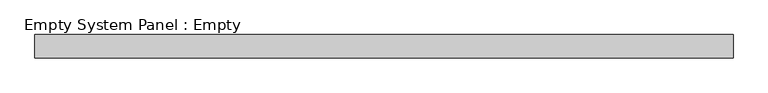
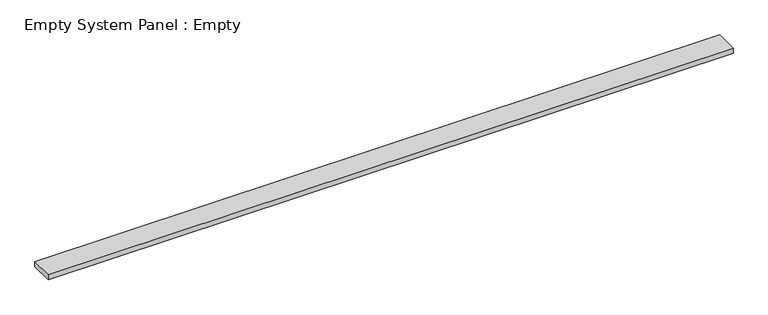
"""IFC4 building model written with IfcOpenShell, lengths in millimetres: plate geometry, Empty System Panel : Empty."""

import ifcopenshell
import ifcopenshell.guid

model = None  # the IFC model being written
_history = None  # IfcOwnerHistory: only IFC2X3 demands one
_inside = {}  # id of a spatial element -> (the spatial element, [elements in it])
_under = {}  # id of a project, library or spatial element -> (it, [spatial elements below it])
_declared = {}  # id of a project -> (the project, [libraries it declares])
_typed = {}  # id of a type object -> (the type object, [elements of that type])
_made_of = {}  # id of a material, layer set ... -> (it, [elements and type objects made of it])


def new_model(schema):
    """Start an empty IFC model of exactly this schema.

    Asked for "IFC4X3", IfcOpenShell would pick the latest addendum, in which some entities
    have other attributes; the version numbers below select the first issue.
    IFC2X3 requires an IfcOwnerHistory on every rooted entity: one is made here for all.
    """
    global model, _history
    if schema == "IFC4X3":
        model = ifcopenshell.file(schema_version=(4, 3, 0, 0))
    else:
        model = ifcopenshell.file(schema=schema)
    _inside.clear()
    _under.clear()
    _declared.clear()
    _typed.clear()
    _made_of.clear()
    _history = None
    if model.schema == "IFC2X3":
        org = make("IfcOrganization", Name="unknown")
        user = make(
            "IfcPersonAndOrganization",
            ThePerson=make("IfcPerson", FamilyName="unknown"),
            TheOrganization=org,
        )
        app = make(
            "IfcApplication",
            ApplicationDeveloper=org,
            Version="unknown",
            ApplicationFullName="unknown",
            ApplicationIdentifier="unknown",
        )
        _history = make(
            "IfcOwnerHistory",
            OwningUser=user,
            OwningApplication=app,
            ChangeAction="ADDED",
            CreationDate=0,
        )
    return model


def make(cls, **values):
    """One entity of the class cls with the attributes given. An attribute that is None is left unset."""
    return model.create_entity(
        cls, **{name: value for name, value in values.items() if value is not None}
    )


def rooted(cls, **values):
    """An entity with a GlobalId (a new one), such as an element, a storey or a relation."""
    return make(cls, GlobalId=ifcopenshell.guid.new(), OwnerHistory=_history, **values)


def si_unit(unit_type, name, prefix=None):
    """IfcSIUnit, for example si_unit("LENGTHUNIT", "METRE", prefix="MILLI")."""
    return make("IfcSIUnit", UnitType=unit_type, Prefix=prefix, Name=name)


def assignment(units):
    """IfcUnitAssignment: the units of a project."""
    return None if units is None else make("IfcUnitAssignment", Units=units)


def point(xyz):
    """IfcCartesianPoint."""
    return None if xyz is None else make("IfcCartesianPoint", Coordinates=xyz)


def direction(xyz):
    """IfcDirection."""
    return None if xyz is None else make("IfcDirection", DirectionRatios=xyz)


def frame(location, z_axis=None, x_axis=None):
    """IfcAxis2Placement3D, a coordinate frame: its origin and axes. An axis left out is left unset."""
    return make(
        "IfcAxis2Placement3D",
        Location=point(location),
        Axis=direction(z_axis),
        RefDirection=direction(x_axis),
    )


def origin():
    """The frame at (0, 0, 0) with its axes left unset."""
    return frame((0.0, 0.0, 0.0))


def origin_with_axes():
    """The frame at (0, 0, 0) with the z axis (0, 0, 1) and the x axis (1, 0, 0) written out."""
    return frame((0.0, 0.0, 0.0), z_axis=(0.0, 0.0, 1.0), x_axis=(1.0, 0.0, 0.0))


def place(relative_to, where):
    """IfcLocalPlacement: puts the frame where relative to a parent placement (None: the world)."""
    return make(
        "IfcLocalPlacement", PlacementRelTo=relative_to, RelativePlacement=where
    )


def context(
    kind, dimensions, precision=None, world=None, true_north=None, identifier=None
):
    """IfcGeometricRepresentationContext, for example the 3D "Model" context."""
    return make(
        "IfcGeometricRepresentationContext",
        ContextIdentifier=identifier,
        ContextType=kind,
        CoordinateSpaceDimension=dimensions,
        Precision=precision,
        WorldCoordinateSystem=world,
        TrueNorth=true_north,
    )


def project(units=None, contexts=None):
    """IfcProject with its units and contexts."""
    return rooted(
        "IfcProject",
        Name="project",
        RepresentationContexts=contexts,
        UnitsInContext=assignment(units),
    )


def spatial(cls, under=None, at=None, **own):
    """A site, building, storey or space (cls), placed at a placement, below another one or the project."""
    s = rooted(cls, ObjectPlacement=at, **own)
    if under is not None:
        _under.setdefault(under.id(), (under, []))[1].append(s)
    return s


def polyline(points):
    """IfcPolyline through the points."""
    return make("IfcPolyline", Points=[point(p) for p in points])


def outline(outer, holes=None, kind="AREA"):
    """IfcArbitraryClosedProfileDef: a profile drawn as a closed curve; with holes, ...WithVoids."""
    if holes is None:
        return make("IfcArbitraryClosedProfileDef", ProfileType=kind, OuterCurve=outer)
    return make(
        "IfcArbitraryProfileDefWithVoids",
        ProfileType=kind,
        OuterCurve=outer,
        InnerCurves=holes,
    )


def extrude(swept, where, along, depth):
    """IfcExtrudedAreaSolid: the profile swept, set in the frame where, extruded along a direction by depth."""
    return make(
        "IfcExtrudedAreaSolid",
        SweptArea=swept,
        Position=where,
        ExtrudedDirection=direction(along),
        Depth=depth,
    )


def shape(context_of_items, identifier, shape_type, items):
    """IfcShapeRepresentation: the items that make up one representation, for example the "Body"."""
    return make(
        "IfcShapeRepresentation",
        ContextOfItems=context_of_items,
        RepresentationIdentifier=identifier,
        RepresentationType=shape_type,
        Items=items,
    )


def source(mapping_origin, context_of_items, identifier, shape_type, items):
    """IfcRepresentationMap: a shape defined once, which mapped items show again and again."""
    return make(
        "IfcRepresentationMap",
        MappingOrigin=mapping_origin,
        MappedRepresentation=shape(context_of_items, identifier, shape_type, items),
    )


def transform(
    local_origin,
    x_axis=None,
    y_axis=None,
    z_axis=None,
    scale=None,
    scale2=None,
    scale3=None,
    uniform=True,
):
    """IfcCartesianTransformationOperator3D, or its non-uniform kind. x_axis, y_axis, z_axis: its Axis1, 2, 3."""
    if uniform:
        return make(
            "IfcCartesianTransformationOperator3D",
            Axis1=direction(x_axis),
            Axis2=direction(y_axis),
            LocalOrigin=point(local_origin),
            Scale=scale,
            Axis3=direction(z_axis),
        )
    return make(
        "IfcCartesianTransformationOperator3DnonUniform",
        Axis1=direction(x_axis),
        Axis2=direction(y_axis),
        LocalOrigin=point(local_origin),
        Scale=scale,
        Axis3=direction(z_axis),
        Scale2=scale2,
        Scale3=scale3,
    )


def mapped(mapping_source, mapping_target):
    """IfcMappedItem: shows the shape of a source again, moved by a transform."""
    return make(
        "IfcMappedItem", MappingSource=mapping_source, MappingTarget=mapping_target
    )


def made_of(thing, what):
    """Note that an element or type object is made of a material, layer set ...; save() writes the relation."""
    if what is not None:
        _made_of.setdefault(what.id(), (what, []))[1].append(thing)
    return thing


def element(
    cls,
    number,
    at=None,
    inside=None,
    cuts=None,
    type_object=None,
    material=None,
    context=None,
    identifier="Body",
    shape_type=None,
    held_by="IfcProductDefinitionShape",
    body=None,
    shapes=None,
    **own,
):
    """One element of the class cls, such as IfcWall. Its Tag is "e" and its number.

    at: its placement. inside: the storey or other place that contains it. cuts: it is an
    opening in that element (IfcRelVoidsElement). A single representation is given by context,
    identifier, shape_type and body (its items); several are given by shapes. held_by: the class
    of the entity that holds the representations. save() writes the other relations.
    """
    e = rooted(cls, Tag="e%d" % number, ObjectPlacement=at, **own)
    if body is not None:
        shapes = [shape(context, identifier, shape_type, body)]
    if shapes is not None:
        e.Representation = make(held_by, Representations=shapes)
    if inside is not None:
        _inside.setdefault(inside.id(), (inside, []))[1].append(e)
    if cuts is not None:
        rooted(
            "IfcRelVoidsElement", RelatingBuildingElement=cuts, RelatedOpeningElement=e
        )
    if type_object is not None:
        _typed.setdefault(type_object.id(), (type_object, []))[1].append(e)
    return made_of(e, material)


def aggregate(whole, parts):
    """IfcRelAggregates: a whole, such as a stair, and the parts it consists of."""
    return rooted("IfcRelAggregates", RelatingObject=whole, RelatedObjects=parts)


def save(model, path):
    """Write the relations noted so far, then the file.

    IfcRelAggregates (storeys below a building ...), IfcRelContainedInSpatialStructure (elements
    in a storey), IfcRelDefinesByType, IfcRelAssociatesMaterial and IfcRelDeclares: one each for
    every whole, place, type object, material and project.
    """
    for whole, parts in _under.values():
        aggregate(whole, parts)
    for where, things in _inside.values():
        rooted(
            "IfcRelContainedInSpatialStructure",
            RelatedElements=things,
            RelatingStructure=where,
        )
    for kind, things in _typed.values():
        rooted("IfcRelDefinesByType", RelatedObjects=things, RelatingType=kind)
    for what, things in _made_of.values():
        rooted("IfcRelAssociatesMaterial", RelatedObjects=things, RelatingMaterial=what)
    for by, libraries in _declared.values():
        rooted("IfcRelDeclares", RelatingContext=by, RelatedDefinitions=libraries)
    model.write(path)


def empty_system_panel_empty_eb7023d6(model_context):
    return source(origin(), model_context, "Body", "SweptSolid", [
        extrude(outline(polyline([(1500.0, -50.0), (-1500.0, -50.0), (-1500.0, 50.0), (1500.0, 50.0), (1500.0, -50.0)])), origin_with_axes(), (0.0, 0.0, 1.0), 23.8370491),
    ])


if __name__ == "__main__":
    model = new_model("IFC4")
    model_context = context("Model", 3, world=origin())
    ifc_project = project(units=[si_unit("LENGTHUNIT", "METRE", prefix="MILLI")], contexts=[model_context])
    site = spatial("IfcSite", under=ifc_project)
    building = spatial("IfcBuilding", under=site)
    placement = place(None, origin())
    empty_system_panel_empty_shape = empty_system_panel_empty_eb7023d6(model_context)
    element("IfcPlate", 1, ObjectType="Empty System Panel : Empty", at=placement, inside=building, context=model_context, shape_type="MappedRepresentation", body=[
        mapped(empty_system_panel_empty_shape, transform((0.0, 0.0, 0.0), x_axis=(1.0, 0.0, 0.0), y_axis=(0.0, 1.0, 0.0), z_axis=(0.0, 0.0, 1.0))),
    ])
    save(model, "model.ifc")
